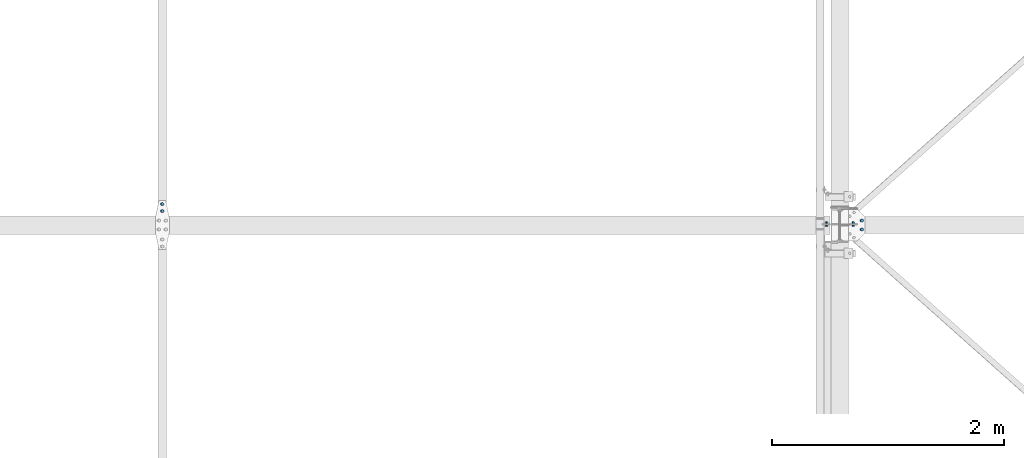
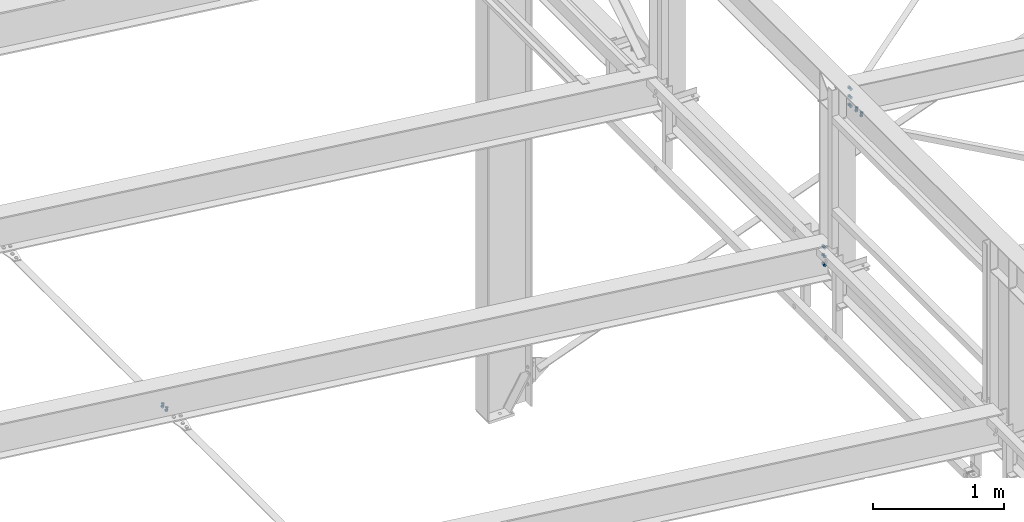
# One storey, part 281 of 3134: 4 mechanical fasteners, 3 elements without a shape of their own.
"""IFC2X3 building model written with IfcOpenShell, lengths in millimetres."""

import ifcopenshell
import ifcopenshell.guid

model = None  # the IFC model being written
_history = None  # IfcOwnerHistory: only IFC2X3 demands one
_inside = {}  # id of a spatial element -> (the spatial element, [elements in it])
_under = {}  # id of a project, library or spatial element -> (it, [spatial elements below it])
_declared = {}  # id of a project -> (the project, [libraries it declares])
_typed = {}  # id of a type object -> (the type object, [elements of that type])
_made_of = {}  # id of a material, layer set ... -> (it, [elements and type objects made of it])


def new_model(schema):
    """Start an empty IFC model of exactly this schema.

    Asked for "IFC4X3", IfcOpenShell would pick the latest addendum, in which some entities
    have other attributes; the version numbers below select the first issue.
    IFC2X3 requires an IfcOwnerHistory on every rooted entity: one is made here for all.
    """
    global model, _history
    if schema == "IFC4X3":
        model = ifcopenshell.file(schema_version=(4, 3, 0, 0))
    else:
        model = ifcopenshell.file(schema=schema)
    _inside.clear()
    _under.clear()
    _declared.clear()
    _typed.clear()
    _made_of.clear()
    _history = None
    if model.schema == "IFC2X3":
        org = make("IfcOrganization", Name="unknown")
        user = make(
            "IfcPersonAndOrganization",
            ThePerson=make("IfcPerson", FamilyName="unknown"),
            TheOrganization=org,
        )
        app = make(
            "IfcApplication",
            ApplicationDeveloper=org,
            Version="unknown",
            ApplicationFullName="unknown",
            ApplicationIdentifier="unknown",
        )
        _history = make(
            "IfcOwnerHistory",
            OwningUser=user,
            OwningApplication=app,
            ChangeAction="ADDED",
            CreationDate=0,
        )
    return model


def make(cls, **values):
    """One entity of the class cls with the attributes given. An attribute that is None is left unset."""
    return model.create_entity(
        cls, **{name: value for name, value in values.items() if value is not None}
    )


def rooted(cls, **values):
    """An entity with a GlobalId (a new one), such as an element, a storey or a relation."""
    return make(cls, GlobalId=ifcopenshell.guid.new(), OwnerHistory=_history, **values)


def si_unit(unit_type, name, prefix=None):
    """IfcSIUnit, for example si_unit("LENGTHUNIT", "METRE", prefix="MILLI")."""
    return make("IfcSIUnit", UnitType=unit_type, Prefix=prefix, Name=name)


def assignment(units):
    """IfcUnitAssignment: the units of a project."""
    return None if units is None else make("IfcUnitAssignment", Units=units)


def point(xyz):
    """IfcCartesianPoint."""
    return None if xyz is None else make("IfcCartesianPoint", Coordinates=xyz)


def direction(xyz):
    """IfcDirection."""
    return None if xyz is None else make("IfcDirection", DirectionRatios=xyz)


def frame(location, z_axis=None, x_axis=None):
    """IfcAxis2Placement3D, a coordinate frame: its origin and axes. An axis left out is left unset."""
    return make(
        "IfcAxis2Placement3D",
        Location=point(location),
        Axis=direction(z_axis),
        RefDirection=direction(x_axis),
    )


def origin_with_axes():
    """The frame at (0, 0, 0) with the z axis (0, 0, 1) and the x axis (1, 0, 0) written out."""
    return frame((0.0, 0.0, 0.0), z_axis=(0.0, 0.0, 1.0), x_axis=(1.0, 0.0, 0.0))


def place(relative_to, where):
    """IfcLocalPlacement: puts the frame where relative to a parent placement (None: the world)."""
    return make(
        "IfcLocalPlacement", PlacementRelTo=relative_to, RelativePlacement=where
    )


def context(
    kind, dimensions, precision=None, world=None, true_north=None, identifier=None
):
    """IfcGeometricRepresentationContext, for example the 3D "Model" context."""
    return make(
        "IfcGeometricRepresentationContext",
        ContextIdentifier=identifier,
        ContextType=kind,
        CoordinateSpaceDimension=dimensions,
        Precision=precision,
        WorldCoordinateSystem=world,
        TrueNorth=true_north,
    )


def subcontext(parent, identifier, kind, view, scale=None):
    """IfcGeometricRepresentationSubContext, for example "Body" below "Model"."""
    return make(
        "IfcGeometricRepresentationSubContext",
        ContextIdentifier=identifier,
        ContextType=kind,
        ParentContext=parent,
        TargetScale=scale,
        TargetView=view,
    )


def project(units=None, contexts=None):
    """IfcProject with its units and contexts."""
    return rooted(
        "IfcProject",
        Name="project",
        RepresentationContexts=contexts,
        UnitsInContext=assignment(units),
    )


def spatial(cls, under=None, at=None, **own):
    """A site, building, storey or space (cls), placed at a placement, below another one or the project."""
    s = rooted(cls, ObjectPlacement=at, **own)
    if under is not None:
        _under.setdefault(under.id(), (under, []))[1].append(s)
    return s


def faces_of(points, faces, orient=None, outer=None):
    """IfcFace entities. A face is a list of loops; a loop is a list of indices into points, from 0.

    orient and outer hold one flag for each loop. By default every Orientation is true, the
    first loop of a face is its IfcFaceOuterBound and the others are IfcFaceBound.
    """
    made = []
    for i, loops in enumerate(faces):
        bounds = []
        for j, loop in enumerate(loops):
            is_outer = j == 0 if outer is None else outer[i][j]
            bounds.append(
                make(
                    "IfcFaceOuterBound" if is_outer else "IfcFaceBound",
                    Bound=make("IfcPolyLoop", Polygon=[points[k] for k in loop]),
                    Orientation=True if orient is None else orient[i][j],
                )
            )
        made.append(make("IfcFace", Bounds=bounds))
    return made


def faceted_brep(points, faces, orient=None, outer=None, voids=None):
    """IfcFacetedBrep: a solid bounded by flat faces; with voids (closed shells), ...WithVoids."""
    shared = [point(p) for p in points]
    hull = make("IfcClosedShell", CfsFaces=faces_of(shared, faces, orient, outer))
    if voids is None:
        return make("IfcFacetedBrep", Outer=hull)
    return make(
        "IfcFacetedBrepWithVoids",
        Outer=hull,
        Voids=[
            make(cls, CfsFaces=faces_of(shared, fs, o, b)) for cls, fs, o, b in voids
        ],
    )


def shape(context_of_items, identifier, shape_type, items):
    """IfcShapeRepresentation: the items that make up one representation, for example the "Body"."""
    return make(
        "IfcShapeRepresentation",
        ContextOfItems=context_of_items,
        RepresentationIdentifier=identifier,
        RepresentationType=shape_type,
        Items=items,
    )


def source(mapping_origin, context_of_items, identifier, shape_type, items):
    """IfcRepresentationMap: a shape defined once, which mapped items show again and again."""
    return make(
        "IfcRepresentationMap",
        MappingOrigin=mapping_origin,
        MappedRepresentation=shape(context_of_items, identifier, shape_type, items),
    )


def transform(
    local_origin,
    x_axis=None,
    y_axis=None,
    z_axis=None,
    scale=None,
    scale2=None,
    scale3=None,
    uniform=True,
):
    """IfcCartesianTransformationOperator3D, or its non-uniform kind. x_axis, y_axis, z_axis: its Axis1, 2, 3."""
    if uniform:
        return make(
            "IfcCartesianTransformationOperator3D",
            Axis1=direction(x_axis),
            Axis2=direction(y_axis),
            LocalOrigin=point(local_origin),
            Scale=scale,
            Axis3=direction(z_axis),
        )
    return make(
        "IfcCartesianTransformationOperator3DnonUniform",
        Axis1=direction(x_axis),
        Axis2=direction(y_axis),
        LocalOrigin=point(local_origin),
        Scale=scale,
        Axis3=direction(z_axis),
        Scale2=scale2,
        Scale3=scale3,
    )


def mapped(mapping_source, mapping_target):
    """IfcMappedItem: shows the shape of a source again, moved by a transform."""
    return make(
        "IfcMappedItem", MappingSource=mapping_source, MappingTarget=mapping_target
    )


def material(Name=None, Category=None):
    """IfcMaterial."""
    return make("IfcMaterial", Name=Name, Category=Category)


def made_of(thing, what):
    """Note that an element or type object is made of a material, layer set ...; save() writes the relation."""
    if what is not None:
        _made_of.setdefault(what.id(), (what, []))[1].append(thing)
    return thing


def type_object(cls, material=None, **own):
    """A type object (cls), such as IfcWallType, which elements share."""
    return made_of(rooted(cls, **own), material)


def element(
    cls,
    number,
    at=None,
    inside=None,
    cuts=None,
    type_object=None,
    material=None,
    context=None,
    identifier="Body",
    shape_type=None,
    held_by="IfcProductDefinitionShape",
    body=None,
    shapes=None,
    **own,
):
    """One element of the class cls, such as IfcWall. Its Tag is "e" and its number.

    at: its placement. inside: the storey or other place that contains it. cuts: it is an
    opening in that element (IfcRelVoidsElement). A single representation is given by context,
    identifier, shape_type and body (its items); several are given by shapes. held_by: the class
    of the entity that holds the representations. save() writes the other relations.
    """
    e = rooted(cls, Tag="e%d" % number, ObjectPlacement=at, **own)
    if body is not None:
        shapes = [shape(context, identifier, shape_type, body)]
    if shapes is not None:
        e.Representation = make(held_by, Representations=shapes)
    if inside is not None:
        _inside.setdefault(inside.id(), (inside, []))[1].append(e)
    if cuts is not None:
        rooted(
            "IfcRelVoidsElement", RelatingBuildingElement=cuts, RelatedOpeningElement=e
        )
    if type_object is not None:
        _typed.setdefault(type_object.id(), (type_object, []))[1].append(e)
    return made_of(e, material)


def aggregate(whole, parts):
    """IfcRelAggregates: a whole, such as a stair, and the parts it consists of."""
    return rooted("IfcRelAggregates", RelatingObject=whole, RelatedObjects=parts)


def save(model, path):
    """Write the relations noted so far, then the file.

    IfcRelAggregates (storeys below a building ...), IfcRelContainedInSpatialStructure (elements
    in a storey), IfcRelDefinesByType, IfcRelAssociatesMaterial and IfcRelDeclares: one each for
    every whole, place, type object, material and project.
    """
    for whole, parts in _under.values():
        aggregate(whole, parts)
    for where, things in _inside.values():
        rooted(
            "IfcRelContainedInSpatialStructure",
            RelatedElements=things,
            RelatingStructure=where,
        )
    for kind, things in _typed.values():
        rooted("IfcRelDefinesByType", RelatedObjects=things, RelatingType=kind)
    for what, things in _made_of.values():
        rooted("IfcRelAssociatesMaterial", RelatedObjects=things, RelatingMaterial=what)
    for by, libraries in _declared.values():
        rooted("IfcRelDeclares", RelatingContext=by, RelatedDefinitions=libraries)
    model.write(path)


model = new_model("IFC2X3")

# Units and contexts
model_context = context("Model", 3, precision=1e-05, world=origin_with_axes())
body_context = subcontext(model_context, "Body", "Model", "MODEL_VIEW")
ifc_project = project(units=[si_unit("LENGTHUNIT", "METRE", prefix="MILLI"), si_unit("AREAUNIT", "SQUARE_METRE"), si_unit("VOLUMEUNIT", "CUBIC_METRE"), si_unit("MASSUNIT", "GRAM", prefix="KILO"), si_unit("TIMEUNIT", "SECOND"), si_unit("PLANEANGLEUNIT", "RADIAN"), si_unit("SOLIDANGLEUNIT", "STERADIAN"), si_unit("THERMODYNAMICTEMPERATUREUNIT", "DEGREE_CELSIUS"), si_unit("LUMINOUSINTENSITYUNIT", "LUMEN")], contexts=[model_context])

# Site, building, storey
site_placement = place(None, origin_with_axes())
site = spatial("IfcSite", under=ifc_project, at=site_placement, CompositionType="ELEMENT")
building_placement = place(site_placement, origin_with_axes())
building = spatial("IfcBuilding", under=site, at=building_placement, Name="Undefined", CompositionType="ELEMENT")
storey_placement = place(building_placement, origin_with_axes())
storey = spatial("IfcBuildingStorey", under=building, at=storey_placement, Name="Undefined", CompositionType="ELEMENT", Elevation=0.0)

# Assembly, mechanical fastener
assembly_1_placement = place(storey_placement, origin_with_axes())
assembly_1 = element("IfcElementAssembly", 1, at=assembly_1_placement, inside=storey, AssemblyPlace="NOTDEFINED", PredefinedType="RIGID_FRAME")
ifc_material = material(Name="8.8")
mechanical_fastener_type = type_object("IfcMechanicalFastenerType", Name="Bolt assembly")
shared_shape_1 = source(origin_with_axes(), body_context, "Body", "Brep", [
    faceted_brep([(13.856406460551, -10.0, 0.0), (6.92820323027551, -10.0, 12.0), (-6.92820323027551, -10.0, 12.0), (-13.856406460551, -10.0, 1.69692038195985e-15), (-6.92820323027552, -10.0, -12.0), (6.9282032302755, -10.0, -12.0), (6.9282032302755, 0.0, -12.0), (-6.92820323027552, 0.0, -12.0), (-13.856406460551, 0.0, 1.69692038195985e-15), (-6.92820323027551, 0.0, 12.0), (6.92820323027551, 0.0, 12.0), (13.856406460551, 0.0, 0.0), (8.0, 0.0, 0.0), (6.92820323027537, 0.0, 4.00000000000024), (3.99999999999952, 0.0, 6.92820323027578), (-8.29068785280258e-13, 0.0, 8.0), (-4.00000000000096, 0.0, 6.92820323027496), (-6.9282032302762, 0.0, 3.99999999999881), (-8.0, 0.0, -1.65813757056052e-12), (-6.92820323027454, 0.0, -4.00000000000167), (-3.99999999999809, 0.0, -6.92820323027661), (2.47832457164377e-12, 0.0, -8.0), (4.00000000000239, 0.0, -6.92820323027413), (6.92820323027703, 0.0, -3.99999999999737), (6.92820323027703, 35.0000000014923, -3.99999999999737), (4.00000000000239, 35.0000000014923, -6.92820323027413), (2.47832457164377e-12, 35.0000000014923, -8.0), (-3.99999999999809, 35.0000000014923, -6.92820323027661), (-6.92820323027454, 35.0000000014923, -4.00000000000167), (-8.0, 35.0000000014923, -1.65813757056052e-12), (-6.9282032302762, 35.0000000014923, 3.99999999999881), (-4.00000000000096, 35.0000000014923, 6.92820323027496), (-8.29068785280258e-13, 35.0000000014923, 8.0), (3.99999999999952, 35.0000000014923, 6.92820323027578), (6.92820323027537, 35.0000000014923, 4.00000000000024), (8.0, 35.0000000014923, 0.0), (13.856406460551, 15.0039204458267, 0.0), (6.92820323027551, 15.0039204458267, 12.0), (-6.92820323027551, 15.0039204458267, 12.0), (-13.856406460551, 15.0039204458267, 1.69692038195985e-15), (-6.92820323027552, 15.0039204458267, -12.0), (6.9282032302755, 15.0039204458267, -12.0), (6.9282032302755, 28.0039204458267, -12.0), (-6.92820323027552, 28.0039204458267, -12.0), (-13.856406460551, 28.0039204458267, 1.69692038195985e-15), (-6.92820323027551, 28.0039204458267, 12.0), (6.92820323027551, 28.0039204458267, 12.0), (13.856406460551, 28.0039204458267, 0.0)], [[[0, 1, 2, 3, 4, 5]], [[6, 7, 8, 9, 10, 11]], [[0, 11, 10, 1]], [[1, 10, 9, 2]], [[2, 9, 8, 3]], [[3, 8, 7, 4]], [[4, 7, 6, 5]], [[5, 6, 11, 0]], [[12, 13, 14, 15, 16, 17, 18, 19, 20, 21, 22, 23]], [[24, 25, 26, 27, 28, 29, 30, 31, 32, 33, 34, 35]], [[12, 35, 34, 13]], [[13, 34, 33, 14]], [[14, 33, 32, 15]], [[15, 32, 31, 16]], [[16, 31, 30, 17]], [[17, 30, 29, 18]], [[18, 29, 28, 19]], [[19, 28, 27, 20]], [[20, 27, 26, 21]], [[21, 26, 25, 22]], [[22, 25, 24, 23]], [[23, 24, 35, 12]], [[36, 37, 38, 39, 40, 41]], [[42, 43, 44, 45, 46, 47]], [[36, 47, 46, 37]], [[37, 46, 45, 38]], [[38, 45, 44, 39]], [[39, 44, 43, 40]], [[40, 43, 42, 41]], [[41, 42, 47, 36]]]),
    faceted_brep([(9.0, 0.100000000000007, 0.0), (7.79422863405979, 0.100000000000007, 4.50000000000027), (4.49999999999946, 0.100000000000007, 7.79422863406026), (-9.3270238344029e-13, 0.100000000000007, 9.0), (-4.50000000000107, 0.100000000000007, 7.79422863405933), (-7.79422863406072, 0.100000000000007, 4.49999999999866), (-9.0, 0.100000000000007, -1.86540476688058e-12), (-7.79422863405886, 0.100000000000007, -4.50000000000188), (-4.49999999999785, 0.100000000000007, -7.79422863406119), (2.78811514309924e-12, 0.100000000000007, -9.0), (4.50000000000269, 0.100000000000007, -7.7942286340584), (7.79422863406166, 0.100000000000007, -4.49999999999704), (7.79422863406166, 8.1, -4.49999999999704), (4.50000000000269, 8.1, -7.7942286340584), (2.78811514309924e-12, 8.1, -9.0), (-4.49999999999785, 8.1, -7.79422863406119), (-7.79422863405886, 8.1, -4.50000000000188), (-9.0, 8.1, -1.86540476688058e-12), (-7.79422863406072, 8.1, 4.49999999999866), (-4.50000000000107, 8.1, 7.79422863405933), (-9.3270238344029e-13, 8.1, 9.0), (4.49999999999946, 8.1, 7.79422863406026), (7.79422863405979, 8.1, 4.50000000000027), (9.0, 8.1, 0.0), (9.0, 7.90392044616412, 0.0), (7.79422863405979, 7.90392044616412, 4.50000000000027), (4.49999999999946, 7.90392044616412, 7.79422863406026), (-9.3270238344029e-13, 7.90392044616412, 9.0), (-4.50000000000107, 7.90392044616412, 7.79422863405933), (-7.79422863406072, 7.90392044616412, 4.49999999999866), (-9.0, 7.90392044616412, -1.86540476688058e-12), (-7.79422863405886, 7.90392044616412, -4.50000000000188), (-4.49999999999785, 7.90392044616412, -7.79422863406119), (2.78811514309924e-12, 7.90392044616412, -9.0), (4.50000000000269, 7.90392044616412, -7.7942286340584), (7.79422863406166, 7.90392044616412, -4.49999999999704), (7.79422863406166, 15.0039204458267, -4.49999999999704), (4.50000000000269, 15.0039204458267, -7.7942286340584), (2.78811514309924e-12, 15.0039204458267, -9.0), (-4.49999999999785, 15.0039204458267, -7.79422863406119), (-7.79422863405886, 15.0039204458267, -4.50000000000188), (-9.0, 15.0039204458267, -1.86540476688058e-12), (-7.79422863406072, 15.0039204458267, 4.49999999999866), (-4.50000000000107, 15.0039204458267, 7.79422863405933), (-9.3270238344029e-13, 15.0039204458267, 9.0), (4.49999999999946, 15.0039204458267, 7.79422863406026), (7.79422863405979, 15.0039204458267, 4.50000000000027), (9.0, 15.0039204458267, 0.0)], [[[0, 1, 2, 3, 4, 5, 6, 7, 8, 9, 10, 11]], [[12, 13, 14, 15, 16, 17, 18, 19, 20, 21, 22, 23]], [[0, 23, 22, 1]], [[1, 22, 21, 2]], [[2, 21, 20, 3]], [[3, 20, 19, 4]], [[4, 19, 18, 5]], [[5, 18, 17, 6]], [[6, 17, 16, 7]], [[7, 16, 15, 8]], [[8, 15, 14, 9]], [[9, 14, 13, 10]], [[10, 13, 12, 11]], [[11, 12, 23, 0]], [[24, 25, 26, 27, 28, 29, 30, 31, 32, 33, 34, 35]], [[36, 37, 38, 39, 40, 41, 42, 43, 44, 45, 46, 47]], [[24, 47, 46, 25]], [[25, 46, 45, 26]], [[26, 45, 44, 27]], [[27, 44, 43, 28]], [[28, 43, 42, 29]], [[29, 42, 41, 30]], [[30, 41, 40, 31]], [[31, 40, 39, 32]], [[32, 39, 38, 33]], [[33, 38, 37, 34]], [[34, 37, 36, 35]], [[35, 36, 47, 24]]]),
])
mechanical_fastener_1_placement = place(assembly_1_placement, frame((38358.9798217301, 56030.0, 4773.97816653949), z_axis=(0.992623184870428, 0.0, -0.121240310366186), x_axis=(0.0, -1.0, 0.0)))
mechanical_fastener_1 = element("IfcMechanicalFastener", 2, at=mechanical_fastener_1_placement, type_object=mechanical_fastener_type, material=ifc_material, Name="Bolt assembly", NominalDiameter=16.0, NominalLength=35.0, context=body_context, shape_type="MappedRepresentation", body=[
    mapped(shared_shape_1, transform((0.0, 0.0, 0.0))),
    mapped(shared_shape_1, transform((59.9999999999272, 0.0, 5.40239852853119e-10))),
])
aggregate(assembly_1, [mechanical_fastener_1])

assembly_2_placement = place(storey_placement, origin_with_axes())
assembly_2 = element("IfcElementAssembly", 3, at=assembly_2_placement, inside=storey, Name="300", AssemblyPlace="NOTDEFINED", PredefinedType="RIGID_FRAME")
shared_shape_2 = source(origin_with_axes(), body_context, "Body", "Brep", [
    faceted_brep([(13.856406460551, -19.199990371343, 0.0), (6.92820323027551, -19.199990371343, 12.0), (-6.92820323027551, -19.199990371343, 12.0), (-13.856406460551, -19.199990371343, 1.69692038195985e-15), (-6.92820323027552, -19.199990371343, -12.0), (6.9282032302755, -19.199990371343, -12.0), (6.9282032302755, -9.19999037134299, -12.0), (-6.92820323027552, -9.19999037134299, -12.0), (-13.856406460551, -9.19999037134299, 1.69692038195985e-15), (-6.92820323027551, -9.19999037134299, 12.0), (6.92820323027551, -9.19999037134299, 12.0), (13.856406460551, -9.19999037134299, 0.0), (8.0, -9.19999037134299, 0.0), (6.92820323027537, -9.19999037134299, 4.00000000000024), (3.99999999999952, -9.19999037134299, 6.92820323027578), (-8.29068785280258e-13, -9.19999037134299, 8.0), (-4.00000000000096, -9.19999037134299, 6.92820323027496), (-6.9282032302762, -9.19999037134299, 3.99999999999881), (-8.0, -9.19999037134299, -1.65813757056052e-12), (-6.92820323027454, -9.19999037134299, -4.00000000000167), (-3.99999999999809, -9.19999037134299, -6.92820323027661), (2.47832457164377e-12, -9.19999037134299, -8.0), (4.00000000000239, -9.19999037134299, -6.92820323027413), (6.92820323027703, -9.19999037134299, -3.99999999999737), (6.92820323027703, 25.800009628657, -3.99999999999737), (4.00000000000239, 25.800009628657, -6.92820323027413), (2.47832457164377e-12, 25.800009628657, -8.0), (-3.99999999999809, 25.800009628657, -6.92820323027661), (-6.92820323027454, 25.800009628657, -4.00000000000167), (-8.0, 25.800009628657, -1.65813757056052e-12), (-6.9282032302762, 25.800009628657, 3.99999999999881), (-4.00000000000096, 25.800009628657, 6.92820323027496), (-8.29068785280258e-13, 25.800009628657, 8.0), (3.99999999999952, 25.800009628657, 6.92820323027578), (6.92820323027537, 25.800009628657, 4.00000000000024), (8.0, 25.800009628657, 0.0), (13.856406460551, 8.00000637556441, 0.0), (6.92820323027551, 8.00000637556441, 12.0), (-6.92820323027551, 8.00000637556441, 12.0), (-13.856406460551, 8.00000637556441, 1.69692038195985e-15), (-6.92820323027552, 8.00000637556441, -12.0), (6.9282032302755, 8.00000637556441, -12.0), (6.9282032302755, 21.0000063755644, -12.0), (-6.92820323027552, 21.0000063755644, -12.0), (-13.856406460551, 21.0000063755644, 1.69692038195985e-15), (-6.92820323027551, 21.0000063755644, 12.0), (6.92820323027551, 21.0000063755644, 12.0), (13.856406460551, 21.0000063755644, 0.0)], [[[0, 1, 2, 3, 4, 5]], [[6, 7, 8, 9, 10, 11]], [[0, 11, 10, 1]], [[1, 10, 9, 2]], [[2, 9, 8, 3]], [[3, 8, 7, 4]], [[4, 7, 6, 5]], [[5, 6, 11, 0]], [[12, 13, 14, 15, 16, 17, 18, 19, 20, 21, 22, 23]], [[24, 25, 26, 27, 28, 29, 30, 31, 32, 33, 34, 35]], [[12, 35, 34, 13]], [[13, 34, 33, 14]], [[14, 33, 32, 15]], [[15, 32, 31, 16]], [[16, 31, 30, 17]], [[17, 30, 29, 18]], [[18, 29, 28, 19]], [[19, 28, 27, 20]], [[20, 27, 26, 21]], [[21, 26, 25, 22]], [[22, 25, 24, 23]], [[23, 24, 35, 12]], [[36, 37, 38, 39, 40, 41]], [[42, 43, 44, 45, 46, 47]], [[36, 47, 46, 37]], [[37, 46, 45, 38]], [[38, 45, 44, 39]], [[39, 44, 43, 40]], [[40, 43, 42, 41]], [[41, 42, 47, 36]]]),
    faceted_brep([(9.0, -0.1, 0.0), (7.79422863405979, -0.1, 4.50000000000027), (4.49999999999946, -0.1, 7.79422863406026), (-9.3270238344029e-13, -0.1, 9.0), (-4.50000000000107, -0.1, 7.79422863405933), (-7.79422863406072, -0.1, 4.49999999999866), (-9.0, -0.1, -1.86540476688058e-12), (-7.79422863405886, -0.1, -4.50000000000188), (-4.49999999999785, -0.1, -7.79422863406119), (2.78811514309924e-12, -0.1, -9.0), (4.50000000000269, -0.1, -7.7942286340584), (7.79422863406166, -0.1, -4.49999999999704), (7.79422863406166, 8.00000000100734, -4.49999999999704), (4.50000000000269, 8.00000000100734, -7.7942286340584), (2.78811514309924e-12, 8.00000000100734, -9.0), (-4.49999999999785, 8.00000000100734, -7.79422863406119), (-7.79422863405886, 8.00000000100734, -4.50000000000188), (-9.0, 8.00000000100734, -1.86540476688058e-12), (-7.79422863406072, 8.00000000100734, 4.49999999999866), (-4.50000000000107, 8.00000000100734, 7.79422863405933), (-9.3270238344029e-13, 8.00000000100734, 9.0), (4.49999999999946, 8.00000000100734, 7.79422863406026), (7.79422863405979, 8.00000000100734, 4.50000000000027), (9.0, 8.00000000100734, 0.0), (9.0, -9.09999037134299, 0.0), (7.79422863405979, -9.09999037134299, 4.50000000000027), (4.49999999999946, -9.09999037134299, 7.79422863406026), (-9.3270238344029e-13, -9.09999037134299, 9.0), (-4.50000000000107, -9.09999037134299, 7.79422863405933), (-7.79422863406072, -9.09999037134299, 4.49999999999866), (-9.0, -9.09999037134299, -1.86540476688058e-12), (-7.79422863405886, -9.09999037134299, -4.50000000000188), (-4.49999999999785, -9.09999037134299, -7.79422863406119), (2.78811514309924e-12, -9.09999037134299, -9.0), (4.50000000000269, -9.09999037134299, -7.7942286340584), (7.79422863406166, -9.09999037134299, -4.49999999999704), (7.79422863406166, 0.100000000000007, -4.49999999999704), (4.50000000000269, 0.100000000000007, -7.7942286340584), (2.78811514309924e-12, 0.100000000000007, -9.0), (-4.49999999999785, 0.100000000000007, -7.79422863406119), (-7.79422863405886, 0.100000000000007, -4.50000000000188), (-9.0, 0.100000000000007, -1.86540476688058e-12), (-7.79422863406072, 0.100000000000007, 4.49999999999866), (-4.50000000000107, 0.100000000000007, 7.79422863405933), (-9.3270238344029e-13, 0.100000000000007, 9.0), (4.49999999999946, 0.100000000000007, 7.79422863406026), (7.79422863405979, 0.100000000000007, 4.50000000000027), (9.0, 0.100000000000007, 0.0)], [[[0, 1, 2, 3, 4, 5, 6, 7, 8, 9, 10, 11]], [[12, 13, 14, 15, 16, 17, 18, 19, 20, 21, 22, 23]], [[0, 23, 22, 1]], [[1, 22, 21, 2]], [[2, 21, 20, 3]], [[3, 20, 19, 4]], [[4, 19, 18, 5]], [[5, 18, 17, 6]], [[6, 17, 16, 7]], [[7, 16, 15, 8]], [[8, 15, 14, 9]], [[9, 14, 13, 10]], [[10, 13, 12, 11]], [[11, 12, 23, 0]], [[24, 25, 26, 27, 28, 29, 30, 31, 32, 33, 34, 35]], [[36, 37, 38, 39, 40, 41, 42, 43, 44, 45, 46, 47]], [[24, 47, 46, 25]], [[25, 46, 45, 26]], [[26, 45, 44, 27]], [[27, 44, 43, 28]], [[28, 43, 42, 29]], [[29, 42, 41, 30]], [[30, 41, 40, 31]], [[31, 40, 39, 32]], [[32, 39, 38, 33]], [[33, 38, 37, 34]], [[34, 37, 36, 35]], [[35, 36, 47, 24]]]),
])
mechanical_fastener_2_placement = place(assembly_2_placement, frame((44389.2248161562, 55887.9995130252, 5496.68063428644), z_axis=(0.992623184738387, 1.63108538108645e-05, -0.12124031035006), x_axis=(1.62000016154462e-05, -0.999999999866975, -1.90000018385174e-06)))
mechanical_fastener_2 = element("IfcMechanicalFastener", 4, at=mechanical_fastener_2_placement, type_object=mechanical_fastener_type, material=ifc_material, Name="Bolt assembly", NominalDiameter=16.0, NominalLength=35.0, context=body_context, shape_type="MappedRepresentation", body=[
    mapped(shared_shape_2, transform((0.0, 0.0, 0.0))),
    mapped(shared_shape_2, transform((76.0, 0.0, 0.0))),
])

assembly_3_placement = place(storey_placement, origin_with_axes())
assembly_3 = element("IfcElementAssembly", 5, at=assembly_3_placement, inside=storey, Name="IPE330", AssemblyPlace="NOTDEFINED", PredefinedType="RIGID_FRAME")
shared_shape_3 = source(origin_with_axes(), body_context, "Body", "Brep", [
    faceted_brep([(13.856406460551, -13.75, 0.0), (6.92820323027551, -13.75, 12.0), (-6.92820323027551, -13.75, 12.0), (-13.856406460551, -13.75, 1.69692038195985e-15), (-6.92820323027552, -13.75, -12.0), (6.9282032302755, -13.75, -12.0), (6.9282032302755, -3.75, -12.0), (-6.92820323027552, -3.75, -12.0), (-13.856406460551, -3.75, 1.69692038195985e-15), (-6.92820323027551, -3.75, 12.0), (6.92820323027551, -3.75, 12.0), (13.856406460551, -3.75, 0.0), (8.0, -3.75, 0.0), (6.92820323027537, -3.75, 4.00000000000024), (3.99999999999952, -3.75, 6.92820323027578), (-8.29068785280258e-13, -3.75, 8.0), (-4.00000000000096, -3.75, 6.92820323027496), (-6.9282032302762, -3.75, 3.99999999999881), (-8.0, -3.75, -1.65813757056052e-12), (-6.92820323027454, -3.75, -4.00000000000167), (-3.99999999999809, -3.75, -6.92820323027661), (2.47832457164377e-12, -3.75, -8.0), (4.00000000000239, -3.75, -6.92820323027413), (6.92820323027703, -3.75, -3.99999999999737), (6.92820323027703, 31.25, -3.99999999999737), (4.00000000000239, 31.25, -6.92820323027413), (2.47832457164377e-12, 31.25, -8.0), (-3.99999999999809, 31.25, -6.92820323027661), (-6.92820323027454, 31.25, -4.00000000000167), (-8.0, 31.25, -1.65813757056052e-12), (-6.9282032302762, 31.25, 3.99999999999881), (-4.00000000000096, 31.25, 6.92820323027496), (-8.29068785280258e-13, 31.25, 8.0), (3.99999999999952, 31.25, 6.92820323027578), (6.92820323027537, 31.25, 4.00000000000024), (8.0, 31.25, 0.0), (13.856406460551, 13.0500000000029, 0.0), (6.92820323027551, 13.0500000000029, 12.0), (-6.92820323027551, 13.0500000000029, 12.0), (-13.856406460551, 13.0500000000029, 1.69692038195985e-15), (-6.92820323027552, 13.0500000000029, -12.0), (6.9282032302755, 13.0500000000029, -12.0), (6.9282032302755, 26.0500000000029, -12.0), (-6.92820323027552, 26.0500000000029, -12.0), (-13.856406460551, 26.0500000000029, 1.69692038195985e-15), (-6.92820323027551, 26.0500000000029, 12.0), (6.92820323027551, 26.0500000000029, 12.0), (13.856406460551, 26.0500000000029, 0.0)], [[[0, 1, 2, 3, 4, 5]], [[6, 7, 8, 9, 10, 11]], [[0, 11, 10, 1]], [[1, 10, 9, 2]], [[2, 9, 8, 3]], [[3, 8, 7, 4]], [[4, 7, 6, 5]], [[5, 6, 11, 0]], [[12, 13, 14, 15, 16, 17, 18, 19, 20, 21, 22, 23]], [[24, 25, 26, 27, 28, 29, 30, 31, 32, 33, 34, 35]], [[12, 35, 34, 13]], [[13, 34, 33, 14]], [[14, 33, 32, 15]], [[15, 32, 31, 16]], [[16, 31, 30, 17]], [[17, 30, 29, 18]], [[18, 29, 28, 19]], [[19, 28, 27, 20]], [[20, 27, 26, 21]], [[21, 26, 25, 22]], [[22, 25, 24, 23]], [[23, 24, 35, 12]], [[36, 37, 38, 39, 40, 41]], [[42, 43, 44, 45, 46, 47]], [[36, 47, 46, 37]], [[37, 46, 45, 38]], [[38, 45, 44, 39]], [[39, 44, 43, 40]], [[40, 43, 42, 41]], [[41, 42, 47, 36]]]),
    faceted_brep([(9.0, 2.95000000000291, 0.0), (7.79422863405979, 2.95000000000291, 4.50000000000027), (4.49999999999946, 2.95000000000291, 7.79422863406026), (-9.3270238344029e-13, 2.95000000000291, 9.0), (-4.50000000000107, 2.95000000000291, 7.79422863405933), (-7.79422863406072, 2.95000000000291, 4.49999999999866), (-9.0, 2.95000000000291, -1.86540476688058e-12), (-7.79422863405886, 2.95000000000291, -4.50000000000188), (-4.49999999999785, 2.95000000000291, -7.79422863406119), (2.78811514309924e-12, 2.95000000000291, -9.0), (4.50000000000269, 2.95000000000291, -7.7942286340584), (7.79422863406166, 2.95000000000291, -4.49999999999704), (7.79422863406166, 13.0500000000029, -4.49999999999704), (4.50000000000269, 13.0500000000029, -7.7942286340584), (2.78811514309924e-12, 13.0500000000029, -9.0), (-4.49999999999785, 13.0500000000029, -7.79422863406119), (-7.79422863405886, 13.0500000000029, -4.50000000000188), (-9.0, 13.0500000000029, -1.86540476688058e-12), (-7.79422863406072, 13.0500000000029, 4.49999999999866), (-4.50000000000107, 13.0500000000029, 7.79422863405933), (-9.3270238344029e-13, 13.0500000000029, 9.0), (4.49999999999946, 13.0500000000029, 7.79422863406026), (7.79422863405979, 13.0500000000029, 4.50000000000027), (9.0, 13.0500000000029, 0.0), (9.0, -3.65, 0.0), (7.79422863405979, -3.65, 4.50000000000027), (4.49999999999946, -3.65, 7.79422863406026), (-9.3270238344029e-13, -3.65, 9.0), (-4.50000000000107, -3.65, 7.79422863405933), (-7.79422863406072, -3.65, 4.49999999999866), (-9.0, -3.65, -1.86540476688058e-12), (-7.79422863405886, -3.65, -4.50000000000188), (-4.49999999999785, -3.65, -7.79422863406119), (2.78811514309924e-12, -3.65, -9.0), (4.50000000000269, -3.65, -7.7942286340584), (7.79422863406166, -3.65, -4.49999999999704), (7.79422863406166, 3.85, -4.49999999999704), (4.50000000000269, 3.85, -7.7942286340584), (2.78811514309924e-12, 3.85, -9.0), (-4.49999999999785, 3.85, -7.79422863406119), (-7.79422863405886, 3.85, -4.50000000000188), (-9.0, 3.85, -1.86540476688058e-12), (-7.79422863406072, 3.85, 4.49999999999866), (-4.50000000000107, 3.85, 7.79422863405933), (-9.3270238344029e-13, 3.85, 9.0), (4.49999999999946, 3.85, 7.79422863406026), (7.79422863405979, 3.85, 4.50000000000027), (9.0, 3.85, 0.0)], [[[0, 1, 2, 3, 4, 5, 6, 7, 8, 9, 10, 11]], [[12, 13, 14, 15, 16, 17, 18, 19, 20, 21, 22, 23]], [[0, 23, 22, 1]], [[1, 22, 21, 2]], [[2, 21, 20, 3]], [[3, 20, 19, 4]], [[4, 19, 18, 5]], [[5, 18, 17, 6]], [[6, 17, 16, 7]], [[7, 16, 15, 8]], [[8, 15, 14, 9]], [[9, 14, 13, 10]], [[10, 13, 12, 11]], [[11, 12, 23, 0]], [[24, 25, 26, 27, 28, 29, 30, 31, 32, 33, 34, 35]], [[36, 37, 38, 39, 40, 41, 42, 43, 44, 45, 46, 47]], [[24, 47, 46, 25]], [[25, 46, 45, 26]], [[26, 45, 44, 27]], [[27, 44, 43, 28]], [[28, 43, 42, 29]], [[29, 42, 41, 30]], [[30, 41, 40, 31]], [[31, 40, 39, 32]], [[32, 39, 38, 33]], [[33, 38, 37, 34]], [[34, 37, 36, 35]], [[35, 36, 47, 24]]]),
])
mechanical_fastener_3_placement = place(assembly_3_placement, frame((44085.0, 55850.0, 4337.44269270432), z_axis=(1.0, 0.0, 0.0), x_axis=(0.0, 0.0, -1.0)))
mechanical_fastener_3 = element("IfcMechanicalFastener", 6, at=mechanical_fastener_3_placement, type_object=mechanical_fastener_type, material=ifc_material, Name="Bolt assembly", NominalDiameter=16.0, NominalLength=35.0, context=body_context, shape_type="MappedRepresentation", body=[
    mapped(shared_shape_3, transform((0.0, 0.0, 0.0))),
    mapped(shared_shape_3, transform((80.0, 0.0, 0.0))),
    mapped(shared_shape_3, transform((160.0, 0.0, 0.0))),
])
aggregate(assembly_3, [mechanical_fastener_3])

# Mechanical fastener
shared_shape_4 = source(origin_with_axes(), body_context, "Body", "Brep", [
    faceted_brep([(13.856406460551, -13.0499999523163, 0.0), (6.92820323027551, -13.0499999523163, 12.0), (-6.92820323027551, -13.0499999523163, 12.0), (-13.856406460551, -13.0499999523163, 1.69692038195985e-15), (-6.92820323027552, -13.0499999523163, -12.0), (6.9282032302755, -13.0499999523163, -12.0), (6.9282032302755, -3.04999995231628, -12.0), (-6.92820323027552, -3.04999995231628, -12.0), (-13.856406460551, -3.04999995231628, 1.69692038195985e-15), (-6.92820323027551, -3.04999995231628, 12.0), (6.92820323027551, -3.04999995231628, 12.0), (13.856406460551, -3.04999995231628, 0.0), (8.0, -3.04999995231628, 0.0), (6.92820323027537, -3.04999995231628, 4.00000000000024), (3.99999999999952, -3.04999995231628, 6.92820323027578), (-8.29068785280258e-13, -3.04999995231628, 8.0), (-4.00000000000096, -3.04999995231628, 6.92820323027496), (-6.9282032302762, -3.04999995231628, 3.99999999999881), (-8.0, -3.04999995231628, -1.65813757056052e-12), (-6.92820323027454, -3.04999995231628, -4.00000000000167), (-3.99999999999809, -3.04999995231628, -6.92820323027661), (2.47832457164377e-12, -3.04999995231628, -8.0), (4.00000000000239, -3.04999995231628, -6.92820323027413), (6.92820323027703, -3.04999995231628, -3.99999999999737), (6.92820323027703, 31.9500000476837, -3.99999999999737), (4.00000000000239, 31.9500000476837, -6.92820323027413), (2.47832457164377e-12, 31.9500000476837, -8.0), (-3.99999999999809, 31.9500000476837, -6.92820323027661), (-6.92820323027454, 31.9500000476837, -4.00000000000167), (-8.0, 31.9500000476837, -1.65813757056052e-12), (-6.9282032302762, 31.9500000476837, 3.99999999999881), (-4.00000000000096, 31.9500000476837, 6.92820323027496), (-8.29068785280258e-13, 31.9500000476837, 8.0), (3.99999999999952, 31.9500000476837, 6.92820323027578), (6.92820323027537, 31.9500000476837, 4.00000000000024), (8.0, 31.9500000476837, 0.0), (13.856406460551, 13.0500000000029, 0.0), (6.92820323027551, 13.0500000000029, 12.0), (-6.92820323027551, 13.0500000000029, 12.0), (-13.856406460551, 13.0500000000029, 1.69692038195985e-15), (-6.92820323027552, 13.0500000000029, -12.0), (6.9282032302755, 13.0500000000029, -12.0), (6.9282032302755, 26.0500000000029, -12.0), (-6.92820323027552, 26.0500000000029, -12.0), (-13.856406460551, 26.0500000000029, 1.69692038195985e-15), (-6.92820323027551, 26.0500000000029, 12.0), (6.92820323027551, 26.0500000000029, 12.0), (13.856406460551, 26.0500000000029, 0.0)], [[[0, 1, 2, 3, 4, 5]], [[6, 7, 8, 9, 10, 11]], [[0, 11, 10, 1]], [[1, 10, 9, 2]], [[2, 9, 8, 3]], [[3, 8, 7, 4]], [[4, 7, 6, 5]], [[5, 6, 11, 0]], [[12, 13, 14, 15, 16, 17, 18, 19, 20, 21, 22, 23]], [[24, 25, 26, 27, 28, 29, 30, 31, 32, 33, 34, 35]], [[12, 35, 34, 13]], [[13, 34, 33, 14]], [[14, 33, 32, 15]], [[15, 32, 31, 16]], [[16, 31, 30, 17]], [[17, 30, 29, 18]], [[18, 29, 28, 19]], [[19, 28, 27, 20]], [[20, 27, 26, 21]], [[21, 26, 25, 22]], [[22, 25, 24, 23]], [[23, 24, 35, 12]], [[36, 37, 38, 39, 40, 41]], [[42, 43, 44, 45, 46, 47]], [[36, 47, 46, 37]], [[37, 46, 45, 38]], [[38, 45, 44, 39]], [[39, 44, 43, 40]], [[40, 43, 42, 41]], [[41, 42, 47, 36]]]),
    faceted_brep([(9.0, 2.95000000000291, 0.0), (7.79422863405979, 2.95000000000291, 4.50000000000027), (4.49999999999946, 2.95000000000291, 7.79422863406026), (-9.3270238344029e-13, 2.95000000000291, 9.0), (-4.50000000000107, 2.95000000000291, 7.79422863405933), (-7.79422863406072, 2.95000000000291, 4.49999999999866), (-9.0, 2.95000000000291, -1.86540476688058e-12), (-7.79422863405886, 2.95000000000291, -4.50000000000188), (-4.49999999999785, 2.95000000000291, -7.79422863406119), (2.78811514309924e-12, 2.95000000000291, -9.0), (4.50000000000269, 2.95000000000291, -7.7942286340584), (7.79422863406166, 2.95000000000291, -4.49999999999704), (7.79422863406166, 13.0500000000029, -4.49999999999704), (4.50000000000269, 13.0500000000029, -7.7942286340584), (2.78811514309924e-12, 13.0500000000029, -9.0), (-4.49999999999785, 13.0500000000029, -7.79422863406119), (-7.79422863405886, 13.0500000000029, -4.50000000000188), (-9.0, 13.0500000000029, -1.86540476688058e-12), (-7.79422863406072, 13.0500000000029, 4.49999999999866), (-4.50000000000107, 13.0500000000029, 7.79422863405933), (-9.3270238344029e-13, 13.0500000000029, 9.0), (4.49999999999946, 13.0500000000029, 7.79422863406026), (7.79422863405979, 13.0500000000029, 4.50000000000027), (9.0, 13.0500000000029, 0.0), (9.0, -2.94999995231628, 0.0), (7.79422863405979, -2.94999995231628, 4.50000000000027), (4.49999999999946, -2.94999995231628, 7.79422863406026), (-9.3270238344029e-13, -2.94999995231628, 9.0), (-4.50000000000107, -2.94999995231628, 7.79422863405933), (-7.79422863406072, -2.94999995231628, 4.49999999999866), (-9.0, -2.94999995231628, -1.86540476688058e-12), (-7.79422863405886, -2.94999995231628, -4.50000000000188), (-4.49999999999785, -2.94999995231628, -7.79422863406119), (2.78811514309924e-12, -2.94999995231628, -9.0), (4.50000000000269, -2.94999995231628, -7.7942286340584), (7.79422863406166, -2.94999995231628, -4.49999999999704), (7.79422863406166, 3.14999995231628, -4.49999999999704), (4.50000000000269, 3.14999995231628, -7.7942286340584), (2.78811514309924e-12, 3.14999995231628, -9.0), (-4.49999999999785, 3.14999995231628, -7.79422863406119), (-7.79422863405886, 3.14999995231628, -4.50000000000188), (-9.0, 3.14999995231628, -1.86540476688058e-12), (-7.79422863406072, 3.14999995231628, 4.49999999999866), (-4.50000000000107, 3.14999995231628, 7.79422863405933), (-9.3270238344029e-13, 3.14999995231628, 9.0), (4.49999999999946, 3.14999995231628, 7.79422863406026), (7.79422863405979, 3.14999995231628, 4.50000000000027), (9.0, 3.14999995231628, 0.0)], [[[0, 1, 2, 3, 4, 5, 6, 7, 8, 9, 10, 11]], [[12, 13, 14, 15, 16, 17, 18, 19, 20, 21, 22, 23]], [[0, 23, 22, 1]], [[1, 22, 21, 2]], [[2, 21, 20, 3]], [[3, 20, 19, 4]], [[4, 19, 18, 5]], [[5, 18, 17, 6]], [[6, 17, 16, 7]], [[7, 16, 15, 8]], [[8, 15, 14, 9]], [[9, 14, 13, 10]], [[10, 13, 12, 11]], [[11, 12, 23, 0]], [[24, 25, 26, 27, 28, 29, 30, 31, 32, 33, 34, 35]], [[36, 37, 38, 39, 40, 41, 42, 43, 44, 45, 46, 47]], [[24, 47, 46, 25]], [[25, 46, 45, 26]], [[26, 45, 44, 27]], [[27, 44, 43, 28]], [[28, 43, 42, 29]], [[29, 42, 41, 30]], [[30, 41, 40, 31]], [[31, 40, 39, 32]], [[32, 39, 38, 33]], [[33, 38, 37, 34]], [[34, 37, 36, 35]], [[35, 36, 47, 24]]]),
])
mechanical_fastener_4_placement = place(assembly_2_placement, frame((44315.0, 55850.0, 5735.35014950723), z_axis=(1.0, 0.0, 0.0), x_axis=(0.0, 0.0, -1.0)))
mechanical_fastener_4 = element("IfcMechanicalFastener", 7, at=mechanical_fastener_4_placement, type_object=mechanical_fastener_type, material=ifc_material, Name="Bolt assembly", NominalDiameter=16.0, NominalLength=35.0, context=body_context, shape_type="MappedRepresentation", body=[
    mapped(shared_shape_4, transform((0.0, 0.0, 0.0))),
    mapped(shared_shape_4, transform((80.0, 0.0, 0.0))),
    mapped(shared_shape_4, transform((160.0, 0.0, 0.0))),
])

aggregate(assembly_2, [mechanical_fastener_4, mechanical_fastener_2])

save(model, "model.ifc")
